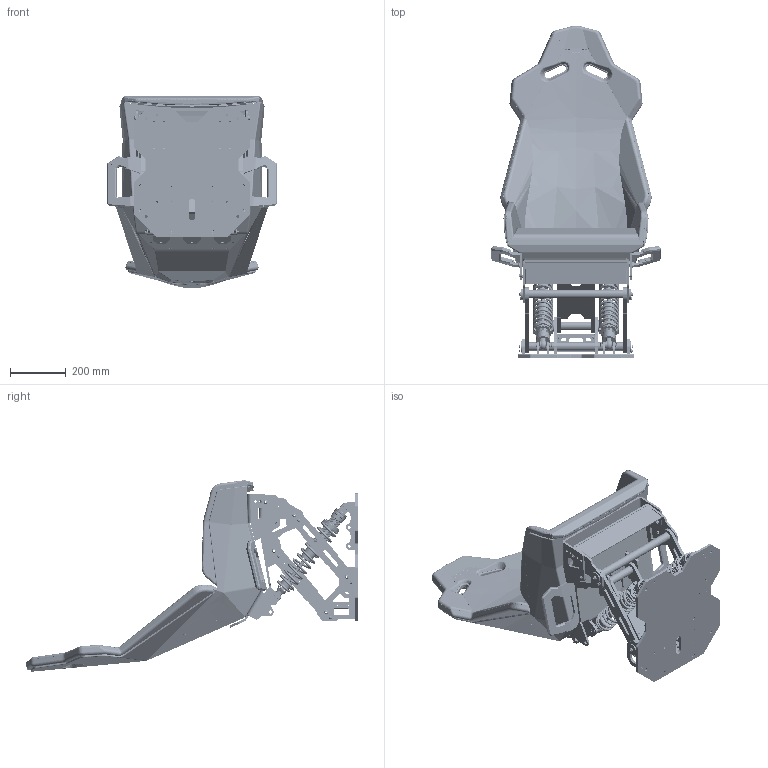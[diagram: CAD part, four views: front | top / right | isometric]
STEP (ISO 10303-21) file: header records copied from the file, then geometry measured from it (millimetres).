
FILE_DESCRIPTION (( 'STEP AP214' ), '1' );
FILE_NAME ('3000 FC_01.0_Simple.STEP', '2016-05-19T04:30:43', ( '' ), ( '' ), 'SwSTEP 2.0', 'SolidWorks 2016', '' );
FILE_SCHEMA (( 'AUTOMOTIVE_DESIGN' ));
Length unit declared in the file: millimetre
Products named in the file (1): 3000 FC_01.0_Simple
Bounding box: 611.23 x 1193.94 x 689.03 mm (x, y, z)
Surface area: 4009387 mm2 (no closed solid volume)
Topology: 0 solids, 568 shells, 3645 faces, 15120 edges, 11148 vertices
Faces by surface type: cylinder 1675, plane 1176, bspline 459, cone 175, torus 94, sphere 66
Entity records: 293918 total; most frequent: CARTESIAN_POINT 136128, DIRECTION 23815, ORIENTED_EDGE 22342, EDGE_CURVE 15106, VERTEX_POINT 11148, AXIS2_PLACEMENT_3D 8684, VECTOR 6447, LINE 6447
